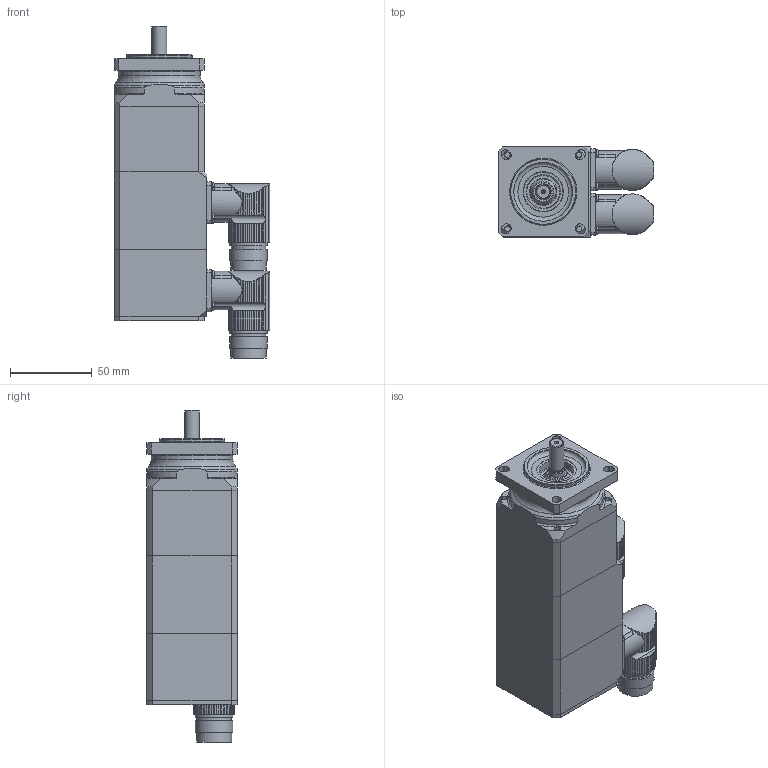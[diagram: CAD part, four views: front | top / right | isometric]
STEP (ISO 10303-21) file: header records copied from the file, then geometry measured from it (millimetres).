
FILE_DESCRIPTION(/* description */ (''),/* implementation_level */ '2;1');
FILE_NAME(/* name */ 'MR 7412-Ux-Nxxx-G##-A0D-M0',/* time_stamp */ '2007-07-13T09:50:00+01:00',/* author */ (''),/* organization */ ('ESR Pollmeier GmbH'),/* preprocessor_version */ 'ST-DEVELOPER v8',/* originating_system */ 'UNIGRAPHICS SOLUTIONS - UNIGRAPHICS 18.0',/* authorisation */ '');
FILE_SCHEMA (('AUTOMOTIVE_DESIGN { 1 2 10303 214 0 1 1 1 }'));
Length unit declared in the file: millimetre
Products named in the file (12): iso2009-m3x8_A; 064224_0; 014258_0; 064235_0; 111004_0; Rotor_SY1_0; Gehaeuse_SY1_40_0; 111001_0; iso1580-m2.5x6_A; 014250_0; DIN3760_org_A10x24x7_0; MR7412-Ux-Nxxx-G##-A0D-M0_0
Assembly tree (21 placements, depth 2):
  MR7412-Ux-Nxxx-G##-A0D-M0_0
    DIN3760_org_A10x24x7_0
    014250_0
    iso1580-m2.5x6_A  x8
    111001_0
    Gehaeuse_SY1_40_0
    Rotor_SY1_0
    111004_0
    064235_0
    014258_0
    064224_0
    iso2009-m3x8_A  x4
Bounding box: 94.99 x 55 x 202.65 mm (x, y, z)
Volume: 243044.1 mm3; surface area: 117691.9 mm2
Topology: 21 solids, 21 shells, 856 faces, 2269 edges, 1484 vertices
Faces by surface type: cylinder 488, plane 222, cone 78, torus 39, sphere 25, bspline 4
Full cylindrical faces by diameter (mm): 1 x21, 1.5 x1, 1.948 x8, 2 x4, 2.135 x8, 2.459 x7, 2.5 x8, 2.7 x8, 3 x4, 3.3 x3, 3.4 x3, 3.432 x4, 3.5 x4, 4.5 x4, 6 x7, 6.5 x3, 8 x4, 8.52 x1, 9 x1, 10 x2, 10.3 x1, 10.5 x1, 15 x2, 18 x4, 20 x5, 21 x3, 21.5 x2, 22 x1, 23 x4, 24 x2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
Entity records: 23043 total; most frequent: CARTESIAN_POINT 5628, DIRECTION 3540, ORIENTED_EDGE 3280, EDGE_CURVE 1640, AXIS2_PLACEMENT_3D 1507, VERTEX_POINT 1201, EDGE_LOOP 1082, CIRCLE 753
